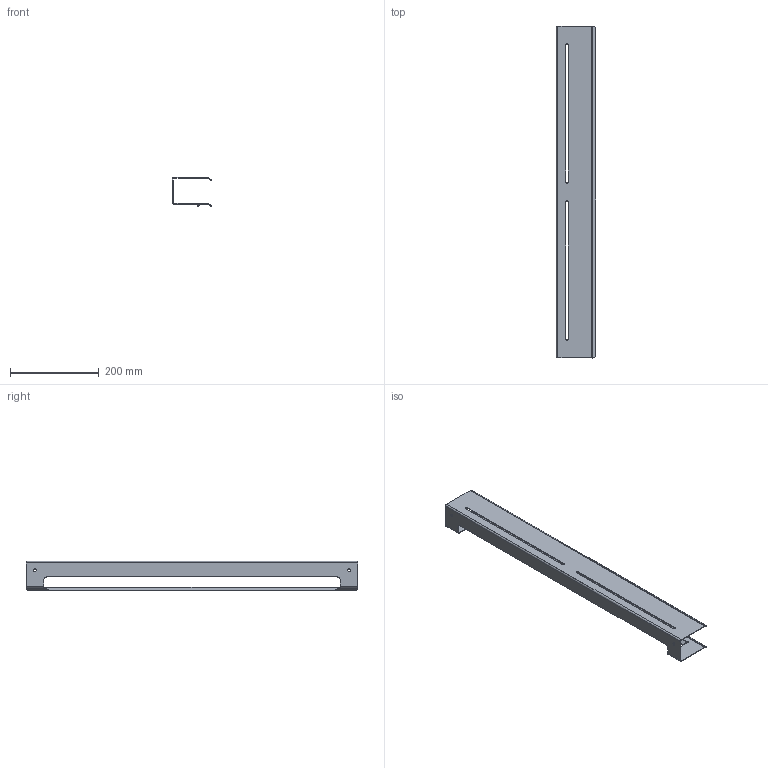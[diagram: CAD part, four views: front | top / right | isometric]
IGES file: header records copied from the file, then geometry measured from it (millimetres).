
Start section: IGES file generated by C3D Converter 1.5 translator by C3D Labs., translator version IGESOUT-5.1.
Global section: file name: D:\×åðòåæè èçäåëèé Âàííà 2023\Ïîëêè Simple Íîâûå\3D\×åðòåæè 22.07.2023\3D\S²MPLE_2LAYER_750.igs; preprocessor: 1.0; author: a.kalenyk83@gmail.com; organization: unknown; date: -17770622:111629; units: millimetre
Bounding box: 88.5 x 750 x 65.77 mm (x, y, z)
Volume: 180996.6 mm3; surface area: 248521.3 mm2
Topology: 1 solids, 1 shells, 80 faces, 192 edges, 112 vertices
Faces by surface type: bspline 50, revolution 30
